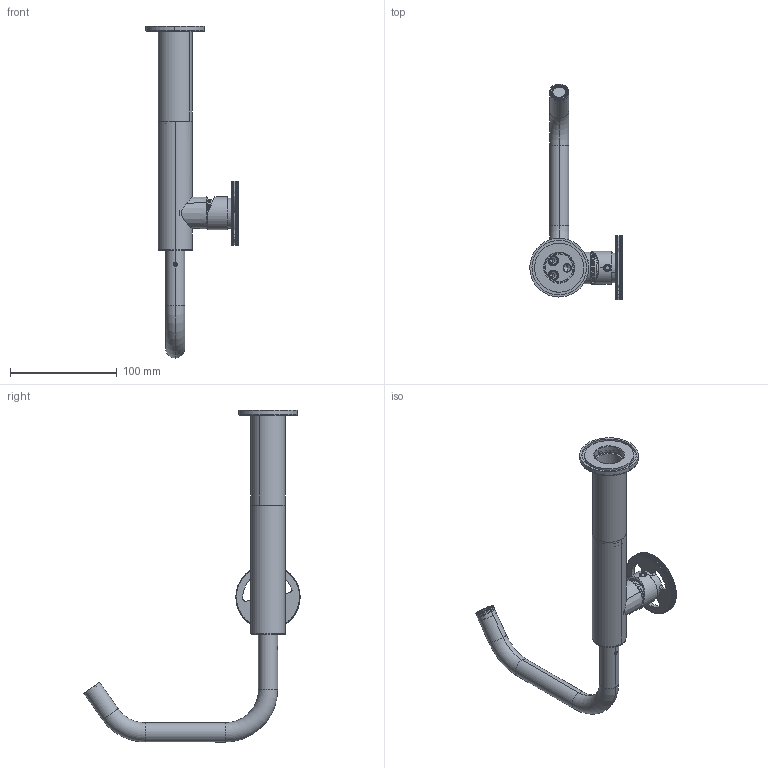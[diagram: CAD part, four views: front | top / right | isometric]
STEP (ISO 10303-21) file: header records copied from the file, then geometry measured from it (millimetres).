
FILE_DESCRIPTION (( 'STEP AP203' ), '1' );
FILE_NAME ('TIB3MC.STEP', '2019-10-25T08:12:19', ( '' ), ( '' ), 'SwSTEP 2.0', 'SolidWorks 2019', '' );
FILE_SCHEMA (( 'CONFIG_CONTROL_DESIGN' ));
Length unit declared in the file: millimetre
Products named in the file (22): EU0371_2; EU0029_1; C24.1476.00.0; AS538_00; EU0120_1; EU0648_1; TIB3MC; EU1767_0; CARTBAG016; EU0649_0; AERA161INC; EU1475_0; EU0119_2; EU0370_3; C12.00.0004; C11.14.0009; GRANO M4X3; C47.00.0023.01; C12.00.0051; AS543_01; EU0824_ZA; C24.1464.00.1
Assembly tree (23 placements, depth 4):
  TIB3MC
    GRANO M4X3
    EU1767_0
    AS538_00
      EU0370_3
      EU0371_2
      CARTBAG016
      EU0120_1
      EU0119_2
      C11.14.0009
      EU0029_1
      C12.00.0004
      C12.00.0051  x2
      EU0649_0  x2
      EU0648_1
      AS543_01
        C24.1464.00.1
        C24.1476.00.0
      C47.00.0023.01
    EU1475_0
    EU0824_ZA
    AERA161INC
Bounding box: 86.51 x 202.3 x 310.77 mm (x, y, z)
Volume: 129369.5 mm3; surface area: 113136.7 mm2
Topology: 20 solids, 30 shells, 1726 faces, 4870 edges, 3187 vertices
Faces by surface type: plane 740, cylinder 640, cone 200, bspline 86, torus 60
Entity records: 62249 total; most frequent: CARTESIAN_POINT 16708, ORIENTED_EDGE 9068, DIRECTION 8853, EDGE_CURVE 4764, AXIS2_PLACEMENT_3D 3153, VERTEX_POINT 3139, LINE 2547, VECTOR 2547
